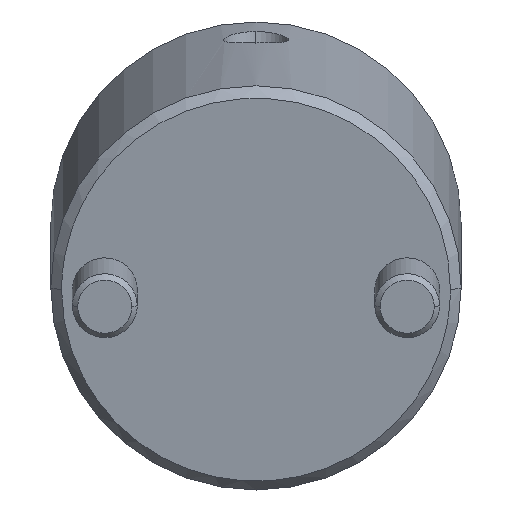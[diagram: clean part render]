
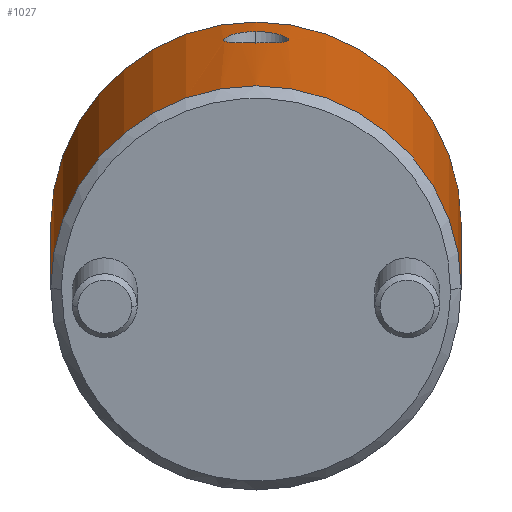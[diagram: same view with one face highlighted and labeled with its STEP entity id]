
A CAD part, front view. The second image highlights one B-rep face of the part: STEP entity #1027.
In plain terms, the highlighted cylindrical face has radius 19 mm (diameter 38 mm), a partial arc.
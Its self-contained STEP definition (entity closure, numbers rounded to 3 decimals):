
#763=CARTESIAN_POINT('Vertex',(0.,19.,1.)) ;
#766=CARTESIAN_POINT('Axis2P3D Location',(0.,0.,1.)) ;
#770=CARTESIAN_POINT('Vertex',(0.,-19.,1.)) ;
#922=CARTESIAN_POINT('Axis2P3D Location',(0.,0.,-1.8)) ;
#927=CARTESIAN_POINT('Line Origine',(0.,19.,-1.8)) ;
#931=CARTESIAN_POINT('Vertex',(0.,19.,35.)) ;
#934=CARTESIAN_POINT('Axis2P3D Location',(0.,0.,35.)) ;
#938=CARTESIAN_POINT('Vertex',(0.,-19.,35.)) ;
#941=CARTESIAN_POINT('Line Origine',(0.,-19.,-1.8)) ;
#953=CARTESIAN_POINT('Control Point',(19.,0.,29.901)) ;
#954=CARTESIAN_POINT('Control Point',(19.,0.082,29.901)) ;
#955=CARTESIAN_POINT('Control Point',(19.,0.164,29.898)) ;
#956=CARTESIAN_POINT('Control Point',(18.999,0.246,29.893)) ;
#957=CARTESIAN_POINT('Control Point',(18.995,0.492,29.866)) ;
#958=CARTESIAN_POINT('Control Point',(18.987,0.735,29.813)) ;
#959=CARTESIAN_POINT('Control Point',(18.98,0.898,29.765)) ;
#960=CARTESIAN_POINT('Control Point',(18.963,1.213,29.648)) ;
#961=CARTESIAN_POINT('Control Point',(18.941,1.506,29.488)) ;
#962=CARTESIAN_POINT('Control Point',(18.929,1.648,29.396)) ;
#963=CARTESIAN_POINT('Control Point',(18.904,1.921,29.193)) ;
#964=CARTESIAN_POINT('Control Point',(18.877,2.164,28.954)) ;
#965=CARTESIAN_POINT('Control Point',(18.864,2.277,28.825)) ;
#966=CARTESIAN_POINT('Control Point',(18.837,2.486,28.552)) ;
#967=CARTESIAN_POINT('Control Point',(18.814,2.657,28.251)) ;
#968=CARTESIAN_POINT('Control Point',(18.803,2.732,28.096)) ;
#969=CARTESIAN_POINT('Control Point',(18.784,2.86,27.777)) ;
#970=CARTESIAN_POINT('Control Point',(18.771,2.943,27.44)) ;
#971=CARTESIAN_POINT('Control Point',(18.766,2.974,27.267)) ;
#972=CARTESIAN_POINT('Control Point',(18.76,3.01,26.926)) ;
#973=CARTESIAN_POINT('Control Point',(18.762,2.999,26.584)) ;
#974=CARTESIAN_POINT('Control Point',(18.765,2.981,26.414)) ;
#975=CARTESIAN_POINT('Control Point',(18.776,2.908,25.993)) ;
#976=CARTESIAN_POINT('Control Point',(18.798,2.765,25.595)) ;
#977=CARTESIAN_POINT('Control Point',(18.815,2.653,25.367)) ;
#978=CARTESIAN_POINT('Control Point',(18.858,2.339,24.863)) ;
#979=CARTESIAN_POINT('Control Point',(18.906,1.913,24.454)) ;
#980=CARTESIAN_POINT('Control Point',(18.933,1.635,24.253)) ;
#981=CARTESIAN_POINT('Control Point',(18.97,1.148,24.)) ;
#982=CARTESIAN_POINT('Control Point',(18.992,0.616,23.861)) ;
#983=CARTESIAN_POINT('Control Point',(18.997,0.411,23.826)) ;
#984=CARTESIAN_POINT('Control Point',(19.,0.206,23.809)) ;
#985=CARTESIAN_POINT('Control Point',(19.,0.,23.809)) ;
#986=CARTESIAN_POINT('Vertex',(19.,0.,29.901)) ;
#988=CARTESIAN_POINT('Vertex',(19.,0.,23.809)) ;
#992=CARTESIAN_POINT('Control Point',(19.,0.,23.809)) ;
#993=CARTESIAN_POINT('Control Point',(19.,-0.168,23.809)) ;
#994=CARTESIAN_POINT('Control Point',(18.998,-0.336,23.82)) ;
#995=CARTESIAN_POINT('Control Point',(18.994,-0.503,23.843)) ;
#996=CARTESIAN_POINT('Control Point',(18.983,-0.835,23.914)) ;
#997=CARTESIAN_POINT('Control Point',(18.966,-1.155,24.03)) ;
#998=CARTESIAN_POINT('Control Point',(18.956,-1.309,24.098)) ;
#999=CARTESIAN_POINT('Control Point',(18.933,-1.607,24.257)) ;
#1000=CARTESIAN_POINT('Control Point',(18.907,-1.88,24.456)) ;
#1001=CARTESIAN_POINT('Control Point',(18.894,-2.01,24.565)) ;
#1002=CARTESIAN_POINT('Control Point',(18.867,-2.251,24.799)) ;
#1003=CARTESIAN_POINT('Control Point',(18.841,-2.456,25.066)) ;
#1004=CARTESIAN_POINT('Control Point',(18.828,-2.55,25.207)) ;
#1005=CARTESIAN_POINT('Control Point',(18.799,-2.758,25.572)) ;
#1006=CARTESIAN_POINT('Control Point',(18.778,-2.899,25.971)) ;
#1007=CARTESIAN_POINT('Control Point',(18.768,-2.959,26.222)) ;
#1008=CARTESIAN_POINT('Control Point',(18.759,-3.015,26.646)) ;
#1009=CARTESIAN_POINT('Control Point',(18.762,-2.996,27.073)) ;
#1010=CARTESIAN_POINT('Control Point',(18.765,-2.977,27.245)) ;
#1011=CARTESIAN_POINT('Control Point',(18.778,-2.899,27.673)) ;
#1012=CARTESIAN_POINT('Control Point',(18.8,-2.75,28.08)) ;
#1013=CARTESIAN_POINT('Control Point',(18.817,-2.634,28.314)) ;
#1014=CARTESIAN_POINT('Control Point',(18.855,-2.359,28.755)) ;
#1015=CARTESIAN_POINT('Control Point',(18.895,-2.004,29.125)) ;
#1016=CARTESIAN_POINT('Control Point',(18.916,-1.807,29.291)) ;
#1017=CARTESIAN_POINT('Control Point',(18.955,-1.36,29.597)) ;
#1018=CARTESIAN_POINT('Control Point',(18.984,-0.854,29.794)) ;
#1019=CARTESIAN_POINT('Control Point',(18.995,-0.569,29.867)) ;
#1020=CARTESIAN_POINT('Control Point',(19.,-0.286,29.901)) ;
#1021=CARTESIAN_POINT('Control Point',(19.,0.,29.901)) ;
#767=DIRECTION('Axis2P3D Direction',(0.,0.,1.)) ;
#923=DIRECTION('Axis2P3D Direction',(0.,-0.,1.)) ;
#924=DIRECTION('Axis2P3D XDirection',(0.,-1.,0.)) ;
#928=DIRECTION('Vector Direction',(0.,0.,1.)) ;
#935=DIRECTION('Axis2P3D Direction',(0.,-0.,1.)) ;
#942=DIRECTION('Vector Direction',(0.,0.,1.)) ;
#768=AXIS2_PLACEMENT_3D('Circle Axis2P3D',#766,#767,$) ;
#925=AXIS2_PLACEMENT_3D('Cylinder Axis2P3D',#922,#923,#924) ;
#936=AXIS2_PLACEMENT_3D('Circle Axis2P3D',#934,#935,$) ;
#947=ORIENTED_EDGE('',*,*,#933,.F.) ;
#948=ORIENTED_EDGE('',*,*,#940,.T.) ;
#949=ORIENTED_EDGE('',*,*,#945,.T.) ;
#950=ORIENTED_EDGE('',*,*,#772,.F.) ;
#1024=ORIENTED_EDGE('',*,*,#990,.T.) ;
#1025=ORIENTED_EDGE('',*,*,#1022,.T.) ;
#1026=FACE_BOUND('',#1023,.T.) ;
#929=VECTOR('Line Direction',#928,1.) ;
#943=VECTOR('Line Direction',#942,1.) ;
#1027=ADVANCED_FACE('MANIFOLD_SOLID_BREP #1116',(#951,#1026),#926,.T.) ;
#952=B_SPLINE_CURVE_WITH_KNOTS('',5,(#953,#954,#955,#956,#957,#958,#959,#960,#961,#962,#963,#964,#965,#966,#967,#968,#969,#970,#971,#972,#973,#974,#975,#976,#977,#978,#979,#980,#981,#982,#983,#984,#985),.UNSPECIFIED.,.F.,.U.,(6,3,3,3,3,3,3,3,3,3,6),(0.,0.588,1.773,2.977,4.199,5.406,6.605,7.797,9.591,11.987,13.455),.UNSPECIFIED.) ;
#991=B_SPLINE_CURVE_WITH_KNOTS('',5,(#992,#993,#994,#995,#996,#997,#998,#999,#1000,#1001,#1002,#1003,#1004,#1005,#1006,#1007,#1008,#1009,#1010,#1011,#1012,#1013,#1014,#1015,#1016,#1017,#1018,#1019,#1020,#1021),.UNSPECIFIED.,.F.,.U.,(6,3,3,3,3,3,3,3,3,6),(0.,1.205,2.406,3.611,4.813,6.599,7.796,9.61,11.423,13.458),.UNSPECIFIED.) ;
#769=CIRCLE('generated circle',#768,19.) ;
#937=CIRCLE('generated circle',#936,19.) ;
#926=CYLINDRICAL_SURFACE('generated cylinder',#925,19.) ;
#772=EDGE_CURVE('',#764,#771,#769,.F.) ;
#933=EDGE_CURVE('',#932,#764,#930,.F.) ;
#940=EDGE_CURVE('',#932,#939,#937,.F.) ;
#945=EDGE_CURVE('',#939,#771,#944,.F.) ;
#990=EDGE_CURVE('',#987,#989,#952,.T.) ;
#1022=EDGE_CURVE('',#989,#987,#991,.T.) ;
#946=EDGE_LOOP('',(#947,#948,#949,#950)) ;
#1023=EDGE_LOOP('',(#1024,#1025)) ;
#951=FACE_OUTER_BOUND('',#946,.T.) ;
#930=LINE('Line',#927,#929) ;
#944=LINE('Line',#941,#943) ;
#764=VERTEX_POINT('',#763) ;
#771=VERTEX_POINT('',#770) ;
#932=VERTEX_POINT('',#931) ;
#939=VERTEX_POINT('',#938) ;
#987=VERTEX_POINT('',#986) ;
#989=VERTEX_POINT('',#988) ;
